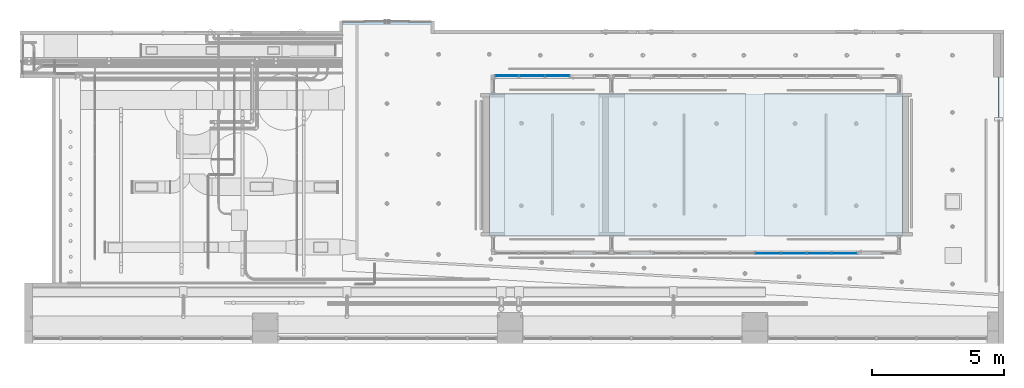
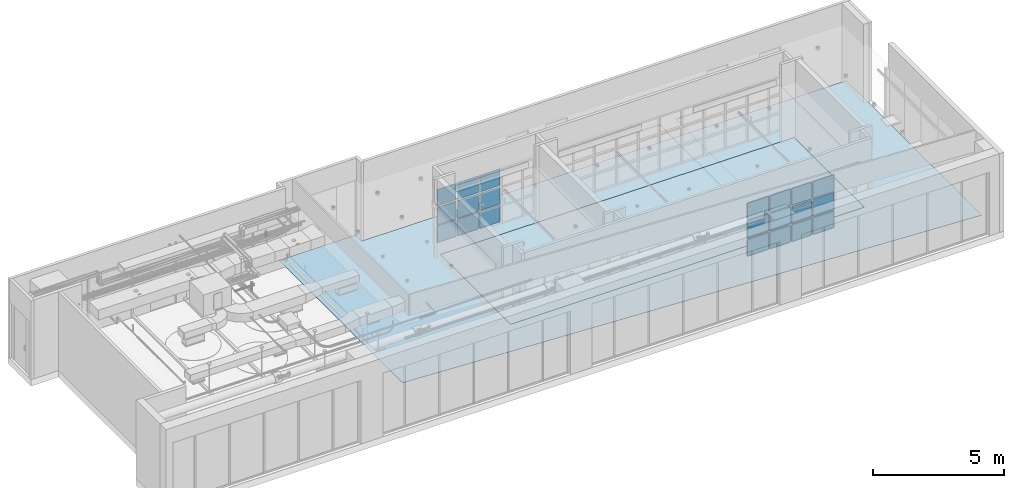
# One storey, part 13 of 108: 21 plates, 2 slabs, 1 opening, 2 elements without a shape of their own.
"""IFC4 building model written with IfcOpenShell, lengths in feet."""

from ifc_helpers import new_model, entity, si_unit, converted_unit, derived_unit, direction, frame, frame_2d, origin, origin_2d_with_axis, place, context, subcontext, project, spatial, polyline, rectangle, outline, extrude, shape, source, transform, mapped, material, layer, layer_set, layer_usage, type_object, type_shapes, element, aggregate, save


model = new_model("IFC4")

# Units and contexts
model_context = context("Model", 3, precision=0.0001, world=origin(), true_north=direction((6.12303176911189e-17, 1.0)))
body_context = subcontext(model_context, "Body", "Model", "MODEL_VIEW")
footprint_context = subcontext(model_context, "FootPrint", "Model", "MODEL_VIEW")
ifc_project = project(units=[converted_unit("LENGTHUNIT", "FOOT", entity("IfcRatioMeasure", 0.3048), si_unit("LENGTHUNIT", "METRE"), dimensions=[1, 0, 0, 0, 0, 0, 0]), converted_unit("AREAUNIT", "SQUARE FOOT", entity("IfcRatioMeasure", 0.09290304), si_unit("AREAUNIT", "SQUARE_METRE"), dimensions=[2, 0, 0, 0, 0, 0, 0]), converted_unit("VOLUMEUNIT", "CUBIC FOOT", entity("IfcRatioMeasure", 0.028316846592), si_unit("VOLUMEUNIT", "CUBIC_METRE"), dimensions=[3, 0, 0, 0, 0, 0, 0]), converted_unit("PLANEANGLEUNIT", "DEGREE", entity("IfcRatioMeasure", 0.0174532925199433), si_unit("PLANEANGLEUNIT", "RADIAN"), dimensions=[0, 0, 0, 0, 0, 0, 0]), si_unit("MASSUNIT", "GRAM", prefix="KILO"), derived_unit("MASSDENSITYUNIT", [(si_unit("MASSUNIT", "GRAM", prefix="KILO"), 1), (si_unit("LENGTHUNIT", "METRE"), -3)]), si_unit("TIMEUNIT", "SECOND"), si_unit("FREQUENCYUNIT", "HERTZ"), si_unit("THERMODYNAMICTEMPERATUREUNIT", "DEGREE_CELSIUS"), derived_unit("THERMALTRANSMITTANCEUNIT", [(si_unit("MASSUNIT", "GRAM", prefix="KILO"), 1), (si_unit("THERMODYNAMICTEMPERATUREUNIT", "KELVIN"), -1), (si_unit("TIMEUNIT", "SECOND"), -3)]), derived_unit("VOLUMETRICFLOWRATEUNIT", [(si_unit("LENGTHUNIT", "METRE"), 3), (si_unit("TIMEUNIT", "SECOND"), -1)]), si_unit("ELECTRICCURRENTUNIT", "AMPERE"), si_unit("ELECTRICVOLTAGEUNIT", "VOLT"), si_unit("POWERUNIT", "WATT"), si_unit("FORCEUNIT", "NEWTON"), si_unit("ILLUMINANCEUNIT", "LUX"), si_unit("LUMINOUSFLUXUNIT", "LUMEN"), si_unit("LUMINOUSINTENSITYUNIT", "CANDELA"), derived_unit("USERDEFINED", [(si_unit("MASSUNIT", "GRAM", prefix="KILO"), -1), (si_unit("LENGTHUNIT", "METRE"), -2), (si_unit("TIMEUNIT", "SECOND"), 3), (si_unit("LUMINOUSFLUXUNIT", "LUMEN"), 1)]), derived_unit("LINEARVELOCITYUNIT", [(si_unit("LENGTHUNIT", "METRE"), 1), (si_unit("TIMEUNIT", "SECOND"), -1)]), si_unit("PRESSUREUNIT", "PASCAL"), derived_unit("USERDEFINED", [(si_unit("LENGTHUNIT", "METRE"), -2), (si_unit("MASSUNIT", "GRAM", prefix="KILO"), 1), (si_unit("TIMEUNIT", "SECOND"), -2)])], contexts=[model_context])

# Site, building, storey
site_placement = place(None, origin())
site = spatial("IfcSite", under=ifc_project, at=site_placement, Name="Default", CompositionType="ELEMENT")
building_placement = place(site_placement, origin())
building = spatial("IfcBuilding", under=site, at=building_placement, CompositionType="ELEMENT")
storey_placement = place(building_placement, frame((0.0, 0.0, 168.0)))
storey = spatial("IfcBuildingStorey", under=building, at=storey_placement, Name="Level 15", CompositionType="ELEMENT", Elevation=168.0)

# Curtain wall, plates
curtain_wall_type = type_object("IfcCurtainWallType", Name="Curtain Wall:Storefront 02", PredefinedType="NOTDEFINED")
curtain_wall_1_placement = place(storey_placement, frame((0.0, 0.0, -168.0)))
curtain_wall_1 = element("IfcCurtainWall", 1, at=curtain_wall_1_placement, inside=storey, type_object=curtain_wall_type, Name="Curtain Wall:Storefront 02", ObjectType="Curtain Wall:Storefront 02", PredefinedType="NOTDEFINED")
ifc_material_1 = material(Name="<Unnamed>")
ifc_layer_1 = layer(ifc_material_1, 0.0833333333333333, Name="<Unnamed>")
ifc_layer_set_1 = layer_set([ifc_layer_1], Name="System Panel:Glazed")
ifc_layer_usage_1 = layer_usage(ifc_layer_set_1, "AXIS3", "POSITIVE", 0.104166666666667)
plate_type_1 = type_object("IfcPlateType", Name="Glazed", PredefinedType="CURTAIN_PANEL", material=ifc_layer_set_1)
shared_shape_1 = source(origin(), body_context, "Body", "SweptSolid", [
    extrude(rectangle(XDim=0.0833333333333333, YDim=3.04166666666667, at=frame_2d((-6.93889390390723e-18, 0.0), x_axis=(1.0, 0.0))), frame((1.52083333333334, 0.0416666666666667, 0.0), z_axis=(0.0, 0.0, 1.0), x_axis=(0.0, 1.0, 0.0)), (0.0, 0.0, 1.0), 2.52844160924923),
])
cartesian_point_1 = entity("IfcCartesianPoint", [3.04166666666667, 0.0])
shared_shape_2 = source(frame((-1.52083333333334, 0.0625, 0.0)), footprint_context, "FootPrint", "Curve2D", [
    entity("IfcPolyline", [cartesian_point_1, entity("IfcCartesianPoint", [3.04166666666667, 0.0833333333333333]), entity("IfcCartesianPoint", [0.0, 0.0833333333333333]), entity("IfcCartesianPoint", [0.0, 0.0]), cartesian_point_1]),
])
type_shapes(plate_type_1, [shared_shape_1, shared_shape_2])
plate_1_placement = place(curtain_wall_1_placement, frame((43.6512039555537, -11.9427703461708, 168.208333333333), z_axis=(0.0, 0.0, 1.0), x_axis=(-1.0, 0.0, 0.0)))
plate_1 = element("IfcPlate", 2, at=plate_1_placement, type_object=plate_type_1, material=ifc_layer_usage_1, Name="System Panel:Glazed", ObjectType="System Panel:Glazed", PredefinedType="CURTAIN_PANEL", shapes=[
    shape(body_context, "Body", "MappedRepresentation", [mapped(shared_shape_1, transform((0.0, 0.0, 0.0), scale=1.0))]),
    shape(body_context, "Body", "MappedRepresentation", [mapped(shared_shape_2, transform((0.0, 0.0, 0.0), scale=1.0))]),
])
ifc_layer_usage_2 = layer_usage(ifc_layer_set_1, "AXIS3", "POSITIVE", 0.104166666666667)
plate_2_placement = place(curtain_wall_1_placement, frame((34.1512039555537, -11.9427703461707, 168.208333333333), z_axis=(0.0, 0.0, 1.0), x_axis=(-1.0, 0.0, 0.0)))
plate_2 = element("IfcPlate", 3, at=plate_2_placement, type_object=plate_type_1, material=ifc_layer_usage_2, Name="System Panel:Glazed", ObjectType="System Panel:Glazed", PredefinedType="CURTAIN_PANEL", shapes=[
    shape(body_context, "Body", "MappedRepresentation", [mapped(shared_shape_1, transform((0.0, 0.0, 0.0), scale=1.0))]),
    shape(body_context, "Body", "MappedRepresentation", [mapped(shared_shape_2, transform((0.0, 0.0, 0.0), scale=1.0))]),
])
ifc_layer_usage_3 = layer_usage(ifc_layer_set_1, "AXIS3", "POSITIVE", 0.104166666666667)
plate_3_placement = place(curtain_wall_1_placement, frame((43.6512039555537, -11.9427703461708, 173.786049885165), z_axis=(0.0, 0.0, 1.0), x_axis=(-1.0, 0.0, 0.0)))
plate_3 = element("IfcPlate", 4, at=plate_3_placement, type_object=plate_type_1, material=ifc_layer_usage_3, Name="System Panel:Glazed", ObjectType="System Panel:Glazed", PredefinedType="CURTAIN_PANEL", shapes=[
    shape(body_context, "Body", "MappedRepresentation", [mapped(shared_shape_1, transform((0.0, 0.0, 0.0), scale=1.0))]),
    shape(body_context, "Body", "MappedRepresentation", [mapped(shared_shape_2, transform((0.0, 0.0, 0.0), scale=1.0))]),
])
ifc_layer_usage_4 = layer_usage(ifc_layer_set_1, "AXIS3", "POSITIVE", 0.104166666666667)
plate_4_placement = place(curtain_wall_1_placement, frame((34.1512039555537, -11.9427703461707, 173.786049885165), z_axis=(0.0, 0.0, 1.0), x_axis=(-1.0, 0.0, 0.0)))
plate_4 = element("IfcPlate", 5, at=plate_4_placement, type_object=plate_type_1, material=ifc_layer_usage_4, Name="System Panel:Glazed", ObjectType="System Panel:Glazed", PredefinedType="CURTAIN_PANEL", shapes=[
    shape(body_context, "Body", "MappedRepresentation", [mapped(shared_shape_1, transform((0.0, 0.0, 0.0), scale=1.0))]),
    shape(body_context, "Body", "MappedRepresentation", [mapped(shared_shape_2, transform((0.0, 0.0, 0.0), scale=1.0))]),
])
ifc_layer_usage_5 = layer_usage(ifc_layer_set_1, "AXIS3", "POSITIVE", 0.104166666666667)
plate_type_2 = type_object("IfcPlateType", Name="Glazed", PredefinedType="CURTAIN_PANEL", material=ifc_layer_set_1)
shared_shape_3 = source(origin(), body_context, "Body", "SweptSolid", [
    extrude(rectangle(XDim=0.0833333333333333, YDim=2.875, at=frame_2d((-6.93889390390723e-18, 0.0), x_axis=(1.0, 0.0))), frame((1.4375, 0.0416666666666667, 0.0), z_axis=(0.0, 0.0, 1.0), x_axis=(0.0, 1.0, 0.0)), (0.0, 0.0, 1.0), 2.52844160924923),
])
cartesian_point_2 = entity("IfcCartesianPoint", [2.875, 0.0])
shared_shape_4 = source(frame((-1.4375, 0.0625, 0.0)), footprint_context, "FootPrint", "Curve2D", [
    entity("IfcPolyline", [cartesian_point_2, entity("IfcCartesianPoint", [2.875, 0.0833333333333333]), entity("IfcCartesianPoint", [0.0, 0.0833333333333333]), entity("IfcCartesianPoint", [0.0, 0.0]), cartesian_point_2]),
])
type_shapes(plate_type_2, [shared_shape_3, shared_shape_4])
plate_5_placement = place(curtain_wall_1_placement, frame((40.4012039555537, -11.9427703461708, 168.208333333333), z_axis=(0.0, 0.0, 1.0), x_axis=(-1.0, 0.0, 0.0)))
plate_5 = element("IfcPlate", 6, at=plate_5_placement, type_object=plate_type_2, material=ifc_layer_usage_5, Name="System Panel:Glazed", ObjectType="System Panel:Glazed", PredefinedType="CURTAIN_PANEL", shapes=[
    shape(body_context, "Body", "MappedRepresentation", [mapped(shared_shape_3, transform((0.0, 0.0, 0.0), scale=1.0))]),
    shape(body_context, "Body", "MappedRepresentation", [mapped(shared_shape_4, transform((0.0, 0.0, 0.0), scale=1.0))]),
])
ifc_layer_usage_6 = layer_usage(ifc_layer_set_1, "AXIS3", "POSITIVE", 0.104166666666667)
plate_6_placement = place(curtain_wall_1_placement, frame((40.4012039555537, -11.9427703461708, 173.786049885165), z_axis=(0.0, 0.0, 1.0), x_axis=(-1.0, 0.0, 0.0)))
plate_6 = element("IfcPlate", 7, at=plate_6_placement, type_object=plate_type_2, material=ifc_layer_usage_6, Name="System Panel:Glazed", ObjectType="System Panel:Glazed", PredefinedType="CURTAIN_PANEL", shapes=[
    shape(body_context, "Body", "MappedRepresentation", [mapped(shared_shape_3, transform((0.0, 0.0, 0.0), scale=1.0))]),
    shape(body_context, "Body", "MappedRepresentation", [mapped(shared_shape_4, transform((0.0, 0.0, 0.0), scale=1.0))]),
])
ifc_layer_usage_7 = layer_usage(ifc_layer_set_1, "AXIS3", "POSITIVE", 0.104166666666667)
plate_type_3 = type_object("IfcPlateType", Name="Glazed", PredefinedType="CURTAIN_PANEL", material=ifc_layer_set_1)
shared_shape_5 = source(origin(), body_context, "Body", "SweptSolid", [
    extrude(rectangle(XDim=0.0833333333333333, YDim=2.95833333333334, at=frame_2d((-6.93889390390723e-18, 0.0), x_axis=(1.0, 0.0))), frame((1.47916666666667, 0.0416666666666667, 0.0), z_axis=(0.0, 0.0, 1.0), x_axis=(0.0, 1.0, 0.0)), (0.0, 0.0, 1.0), 2.52844160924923),
])
cartesian_point_3 = entity("IfcCartesianPoint", [2.95833333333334, 0.0])
shared_shape_6 = source(frame((-1.47916666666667, 0.0625, 0.0)), footprint_context, "FootPrint", "Curve2D", [
    entity("IfcPolyline", [cartesian_point_3, entity("IfcCartesianPoint", [2.95833333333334, 0.0833333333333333]), entity("IfcCartesianPoint", [0.0, 0.0833333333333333]), entity("IfcCartesianPoint", [0.0, 0.0]), cartesian_point_3]),
])
type_shapes(plate_type_3, [shared_shape_5, shared_shape_6])
plate_7_placement = place(curtain_wall_1_placement, frame((37.3178706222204, -11.9427703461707, 168.208333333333), z_axis=(0.0, 0.0, 1.0), x_axis=(-1.0, 0.0, 0.0)))
plate_7 = element("IfcPlate", 8, at=plate_7_placement, type_object=plate_type_3, material=ifc_layer_usage_7, Name="System Panel:Glazed", ObjectType="System Panel:Glazed", PredefinedType="CURTAIN_PANEL", shapes=[
    shape(body_context, "Body", "MappedRepresentation", [mapped(shared_shape_5, transform((0.0, 0.0, 0.0), scale=1.0))]),
    shape(body_context, "Body", "MappedRepresentation", [mapped(shared_shape_6, transform((0.0, 0.0, 0.0), scale=1.0))]),
])
ifc_layer_usage_8 = layer_usage(ifc_layer_set_1, "AXIS3", "POSITIVE", 0.104166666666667)
plate_8_placement = place(curtain_wall_1_placement, frame((37.3178706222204, -11.9427703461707, 173.786049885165), z_axis=(0.0, 0.0, 1.0), x_axis=(-1.0, 0.0, 0.0)))
plate_8 = element("IfcPlate", 9, at=plate_8_placement, type_object=plate_type_3, material=ifc_layer_usage_8, Name="System Panel:Glazed", ObjectType="System Panel:Glazed", PredefinedType="CURTAIN_PANEL", shapes=[
    shape(body_context, "Body", "MappedRepresentation", [mapped(shared_shape_5, transform((0.0, 0.0, 0.0), scale=1.0))]),
    shape(body_context, "Body", "MappedRepresentation", [mapped(shared_shape_6, transform((0.0, 0.0, 0.0), scale=1.0))]),
])
ifc_layer_usage_9 = layer_usage(ifc_layer_set_1, "AXIS3", "POSITIVE", 0.104166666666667)
plate_type_4 = type_object("IfcPlateType", Name="Glazed", PredefinedType="CURTAIN_PANEL", material=ifc_layer_set_1)
shared_shape_7 = source(origin(), body_context, "Body", "SweptSolid", [
    extrude(rectangle(XDim=0.0833333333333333, YDim=3.04166666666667, at=frame_2d((-6.93889390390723e-18, 0.0), x_axis=(1.0, 0.0))), frame((1.52083333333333, 0.0416666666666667, 0.0), z_axis=(0.0, 0.0, 1.0), x_axis=(0.0, 1.0, 0.0)), (0.0, 0.0, 1.0), 2.63260827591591),
])
cartesian_point_4 = entity("IfcCartesianPoint", [3.04166666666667, 0.0])
shared_shape_8 = source(frame((-1.52083333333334, 0.0625, 0.0)), footprint_context, "FootPrint", "Curve2D", [
    entity("IfcPolyline", [cartesian_point_4, entity("IfcCartesianPoint", [3.04166666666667, 0.0833333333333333]), entity("IfcCartesianPoint", [0.0, 0.0833333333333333]), entity("IfcCartesianPoint", [0.0, 0.0]), cartesian_point_4]),
])
type_shapes(plate_type_4, [shared_shape_7, shared_shape_8])
plate_9_placement = place(curtain_wall_1_placement, frame((43.6512039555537, -11.9427703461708, 170.945108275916), z_axis=(0.0, 0.0, 1.0), x_axis=(-1.0, 0.0, 0.0)))
plate_9 = element("IfcPlate", 10, at=plate_9_placement, type_object=plate_type_4, material=ifc_layer_usage_9, Name="System Panel:Glazed", ObjectType="System Panel:Glazed", PredefinedType="CURTAIN_PANEL", shapes=[
    shape(body_context, "Body", "MappedRepresentation", [mapped(shared_shape_7, transform((0.0, 0.0, 0.0), scale=1.0))]),
    shape(body_context, "Body", "MappedRepresentation", [mapped(shared_shape_8, transform((0.0, 0.0, 0.0), scale=1.0))]),
])
ifc_layer_usage_10 = layer_usage(ifc_layer_set_1, "AXIS3", "POSITIVE", 0.104166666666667)
plate_10_placement = place(curtain_wall_1_placement, frame((34.1512039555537, -11.9427703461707, 170.945108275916), z_axis=(0.0, 0.0, 1.0), x_axis=(-1.0, 0.0, 0.0)))
plate_10 = element("IfcPlate", 11, at=plate_10_placement, type_object=plate_type_4, material=ifc_layer_usage_10, Name="System Panel:Glazed", ObjectType="System Panel:Glazed", PredefinedType="CURTAIN_PANEL", shapes=[
    shape(body_context, "Body", "MappedRepresentation", [mapped(shared_shape_7, transform((0.0, 0.0, 0.0), scale=1.0))]),
    shape(body_context, "Body", "MappedRepresentation", [mapped(shared_shape_8, transform((0.0, 0.0, 0.0), scale=1.0))]),
])
ifc_layer_usage_11 = layer_usage(ifc_layer_set_1, "AXIS3", "POSITIVE", 0.104166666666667)
plate_type_5 = type_object("IfcPlateType", Name="Glazed", PredefinedType="CURTAIN_PANEL", material=ifc_layer_set_1)
shared_shape_9 = source(origin(), body_context, "Body", "SweptSolid", [
    extrude(rectangle(XDim=0.0833333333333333, YDim=2.875, at=frame_2d((-6.93889390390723e-18, 0.0), x_axis=(1.0, 0.0))), frame((1.4375, 0.0416666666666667, 0.0), z_axis=(0.0, 0.0, 1.0), x_axis=(0.0, 1.0, 0.0)), (0.0, 0.0, 1.0), 2.63260827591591),
])
cartesian_point_5 = entity("IfcCartesianPoint", [2.875, 0.0])
shared_shape_10 = source(frame((-1.4375, 0.0624999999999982, 0.0)), footprint_context, "FootPrint", "Curve2D", [
    entity("IfcPolyline", [cartesian_point_5, entity("IfcCartesianPoint", [2.875, 0.0833333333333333]), entity("IfcCartesianPoint", [0.0, 0.0833333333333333]), entity("IfcCartesianPoint", [0.0, 0.0]), cartesian_point_5]),
])
type_shapes(plate_type_5, [shared_shape_9, shared_shape_10])
plate_11_placement = place(curtain_wall_1_placement, frame((40.4012039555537, -11.9427703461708, 170.945108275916), z_axis=(0.0, 0.0, 1.0), x_axis=(-1.0, 0.0, 0.0)))
plate_11 = element("IfcPlate", 12, at=plate_11_placement, type_object=plate_type_5, material=ifc_layer_usage_11, Name="System Panel:Glazed", ObjectType="System Panel:Glazed", PredefinedType="CURTAIN_PANEL", shapes=[
    shape(body_context, "Body", "MappedRepresentation", [mapped(shared_shape_9, transform((0.0, 0.0, 0.0), scale=1.0))]),
    shape(body_context, "Body", "MappedRepresentation", [mapped(shared_shape_10, transform((0.0, 0.0, 0.0), scale=1.0))]),
])
ifc_layer_usage_12 = layer_usage(ifc_layer_set_1, "AXIS3", "POSITIVE", 0.104166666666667)
plate_type_6 = type_object("IfcPlateType", Name="Glazed", PredefinedType="CURTAIN_PANEL", material=ifc_layer_set_1)
shared_shape_11 = source(origin(), body_context, "Body", "SweptSolid", [
    extrude(rectangle(XDim=0.0833333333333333, YDim=2.95833333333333, at=frame_2d((-6.93889390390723e-18, 0.0), x_axis=(1.0, 0.0))), frame((1.47916666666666, 0.0416666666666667, 0.0), z_axis=(0.0, 0.0, 1.0), x_axis=(0.0, 1.0, 0.0)), (0.0, 0.0, 1.0), 2.63260827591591),
])
cartesian_point_6 = entity("IfcCartesianPoint", [2.95833333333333, 0.0])
shared_shape_12 = source(frame((-1.47916666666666, 0.0625, 0.0)), footprint_context, "FootPrint", "Curve2D", [
    entity("IfcPolyline", [cartesian_point_6, entity("IfcCartesianPoint", [2.95833333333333, 0.0833333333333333]), entity("IfcCartesianPoint", [0.0, 0.0833333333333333]), entity("IfcCartesianPoint", [0.0, 0.0]), cartesian_point_6]),
])
type_shapes(plate_type_6, [shared_shape_11, shared_shape_12])
plate_12_placement = place(curtain_wall_1_placement, frame((37.3178706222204, -11.9427703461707, 170.945108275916), z_axis=(0.0, 0.0, 1.0), x_axis=(-1.0, 0.0, 0.0)))
plate_12 = element("IfcPlate", 13, at=plate_12_placement, type_object=plate_type_6, material=ifc_layer_usage_12, Name="System Panel:Glazed", ObjectType="System Panel:Glazed", PredefinedType="CURTAIN_PANEL", shapes=[
    shape(body_context, "Body", "MappedRepresentation", [mapped(shared_shape_11, transform((0.0, 0.0, 0.0), scale=1.0))]),
    shape(body_context, "Body", "MappedRepresentation", [mapped(shared_shape_12, transform((0.0, 0.0, 0.0), scale=1.0))]),
])
aggregate(curtain_wall_1, [plate_1, plate_5, plate_7, plate_2, plate_9, plate_11, plate_12, plate_10, plate_3, plate_6, plate_8, plate_4])

curtain_wall_2_placement = place(storey_placement, frame((0.0, 0.0, -168.0)))
curtain_wall_2 = element("IfcCurtainWall", 14, at=curtain_wall_2_placement, inside=storey, type_object=curtain_wall_type, Name="Curtain Wall:Storefront 02", ObjectType="Curtain Wall:Storefront 02", PredefinedType="NOTDEFINED")
ifc_layer_usage_13 = layer_usage(ifc_layer_set_1, "AXIS3", "POSITIVE", 0.104166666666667)
plate_type_7 = type_object("IfcPlateType", Name="Glazed", PredefinedType="CURTAIN_PANEL", material=ifc_layer_set_1)
shared_shape_13 = source(origin(), body_context, "Body", "SweptSolid", [
    extrude(rectangle(XDim=0.0833333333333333, YDim=2.90283401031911, at=origin_2d_with_axis()), frame((1.45141700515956, 0.0416666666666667, 0.0), z_axis=(0.0, 0.0, 1.0), x_axis=(0.0, 1.0, 0.0)), (0.0, 0.0, 1.0), 2.52844160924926),
])
cartesian_point_7 = entity("IfcCartesianPoint", [2.90283401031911, 0.0])
shared_shape_14 = source(frame((-1.45141700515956, -0.145833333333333, 0.0)), footprint_context, "FootPrint", "Curve2D", [
    entity("IfcPolyline", [cartesian_point_7, entity("IfcCartesianPoint", [2.90283401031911, 0.0833333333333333]), entity("IfcCartesianPoint", [0.0, 0.0833333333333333]), entity("IfcCartesianPoint", [0.0, 0.0]), cartesian_point_7]),
])
type_shapes(plate_type_7, [shared_shape_13, shared_shape_14])
plate_13_placement = place(curtain_wall_2_placement, frame((7.9845372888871, 10.1064829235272, 168.208333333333), z_axis=(0.0, 0.0, 1.0), x_axis=(-1.0, 0.0, 0.0)))
plate_13 = element("IfcPlate", 15, at=plate_13_placement, type_object=plate_type_7, material=ifc_layer_usage_13, Name="System Panel:Glazed", ObjectType="System Panel:Glazed", PredefinedType="CURTAIN_PANEL", shapes=[
    shape(body_context, "Body", "MappedRepresentation", [mapped(shared_shape_13, transform((0.0, 0.0, 0.0), scale=1.0))]),
    shape(body_context, "Body", "MappedRepresentation", [mapped(shared_shape_14, transform((0.0, 0.0, 0.0), scale=1.0))]),
])
ifc_layer_usage_14 = layer_usage(ifc_layer_set_1, "AXIS3", "POSITIVE", 0.104166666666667)
plate_14_placement = place(curtain_wall_2_placement, frame((7.9845372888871, 10.1064829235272, 173.786049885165), z_axis=(0.0, 0.0, 1.0), x_axis=(-1.0, 0.0, 0.0)))
plate_14 = element("IfcPlate", 16, at=plate_14_placement, type_object=plate_type_7, material=ifc_layer_usage_14, Name="System Panel:Glazed", ObjectType="System Panel:Glazed", PredefinedType="CURTAIN_PANEL", shapes=[
    shape(body_context, "Body", "MappedRepresentation", [mapped(shared_shape_13, transform((0.0, 0.0, 0.0), scale=1.0))]),
    shape(body_context, "Body", "MappedRepresentation", [mapped(shared_shape_14, transform((0.0, 0.0, 0.0), scale=1.0))]),
])
ifc_layer_usage_15 = layer_usage(ifc_layer_set_1, "AXIS3", "POSITIVE", 0.104166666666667)
plate_type_8 = type_object("IfcPlateType", Name="Glazed", PredefinedType="CURTAIN_PANEL", material=ifc_layer_set_1)
shared_shape_15 = source(origin(), body_context, "Body", "SweptSolid", [
    extrude(rectangle(XDim=0.0833333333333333, YDim=3.03483468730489, at=origin_2d_with_axis()), frame((1.51741734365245, 0.0416666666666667, 0.0), z_axis=(0.0, 0.0, 1.0), x_axis=(0.0, 1.0, 0.0)), (0.0, 0.0, 1.0), 2.52844160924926),
])
cartesian_point_8 = entity("IfcCartesianPoint", [3.03483468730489, 0.0])
shared_shape_16 = source(frame((-1.51741734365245, -0.145833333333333, 0.0)), footprint_context, "FootPrint", "Curve2D", [
    entity("IfcPolyline", [cartesian_point_8, entity("IfcCartesianPoint", [3.03483468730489, 0.0833333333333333]), entity("IfcCartesianPoint", [0.0, 0.0833333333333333]), entity("IfcCartesianPoint", [0.0, 0.0]), cartesian_point_8]),
])
type_shapes(plate_type_8, [shared_shape_15, shared_shape_16])
plate_15_placement = place(curtain_wall_2_placement, frame((4.87336994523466, 10.1064829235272, 168.208333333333), z_axis=(0.0, 0.0, 1.0), x_axis=(-1.0, 0.0, 0.0)))
plate_15 = element("IfcPlate", 17, at=plate_15_placement, type_object=plate_type_8, material=ifc_layer_usage_15, Name="System Panel:Glazed", ObjectType="System Panel:Glazed", PredefinedType="CURTAIN_PANEL", shapes=[
    shape(body_context, "Body", "MappedRepresentation", [mapped(shared_shape_15, transform((0.0, 0.0, 0.0), scale=1.0))]),
    shape(body_context, "Body", "MappedRepresentation", [mapped(shared_shape_16, transform((0.0, 0.0, 0.0), scale=1.0))]),
])
ifc_layer_usage_16 = layer_usage(ifc_layer_set_1, "AXIS3", "POSITIVE", 0.104166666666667)
plate_16_placement = place(curtain_wall_2_placement, frame((4.87336994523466, 10.1064829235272, 173.786049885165), z_axis=(0.0, 0.0, 1.0), x_axis=(-1.0, 0.0, 0.0)))
plate_16 = element("IfcPlate", 18, at=plate_16_placement, type_object=plate_type_8, material=ifc_layer_usage_16, Name="System Panel:Glazed", ObjectType="System Panel:Glazed", PredefinedType="CURTAIN_PANEL", shapes=[
    shape(body_context, "Body", "MappedRepresentation", [mapped(shared_shape_15, transform((0.0, 0.0, 0.0), scale=1.0))]),
    shape(body_context, "Body", "MappedRepresentation", [mapped(shared_shape_16, transform((0.0, 0.0, 0.0), scale=1.0))]),
])
ifc_layer_usage_17 = layer_usage(ifc_layer_set_1, "AXIS3", "POSITIVE", 0.104166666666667)
plate_type_9 = type_object("IfcPlateType", Name="Glazed", PredefinedType="CURTAIN_PANEL", material=ifc_layer_set_1)
shared_shape_17 = source(origin(), body_context, "Body", "SweptSolid", [
    extrude(rectangle(XDim=0.0833333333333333, YDim=2.74111266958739, at=origin_2d_with_axis()), frame((1.3705563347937, 0.0416666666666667, 0.0), z_axis=(0.0, 0.0, 1.0), x_axis=(0.0, 1.0, 0.0)), (0.0, 0.0, 1.0), 2.52844160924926),
])
cartesian_point_9 = entity("IfcCartesianPoint", [2.74111266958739, 0.0])
shared_shape_18 = source(frame((-1.3705563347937, -0.145833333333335, 0.0)), footprint_context, "FootPrint", "Curve2D", [
    entity("IfcPolyline", [cartesian_point_9, entity("IfcCartesianPoint", [2.74111266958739, 0.0833333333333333]), entity("IfcCartesianPoint", [0.0, 0.0833333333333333]), entity("IfcCartesianPoint", [0.0, 0.0]), cartesian_point_9]),
])
type_shapes(plate_type_9, [shared_shape_17, shared_shape_18])
plate_17_placement = place(curtain_wall_2_placement, frame((1.63020192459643, 10.1064829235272, 168.208333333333), z_axis=(0.0, 0.0, 1.0), x_axis=(-1.0, 0.0, 0.0)))
plate_17 = element("IfcPlate", 19, at=plate_17_placement, type_object=plate_type_9, material=ifc_layer_usage_17, Name="System Panel:Glazed", ObjectType="System Panel:Glazed", PredefinedType="CURTAIN_PANEL", shapes=[
    shape(body_context, "Body", "MappedRepresentation", [mapped(shared_shape_17, transform((0.0, 0.0, 0.0), scale=1.0))]),
    shape(body_context, "Body", "MappedRepresentation", [mapped(shared_shape_18, transform((0.0, 0.0, 0.0), scale=1.0))]),
])
ifc_layer_usage_18 = layer_usage(ifc_layer_set_1, "AXIS3", "POSITIVE", 0.104166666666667)
plate_18_placement = place(curtain_wall_2_placement, frame((1.63020192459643, 10.1064829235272, 173.786049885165), z_axis=(0.0, 0.0, 1.0), x_axis=(-1.0, 0.0, 0.0)))
plate_18 = element("IfcPlate", 20, at=plate_18_placement, type_object=plate_type_9, material=ifc_layer_usage_18, Name="System Panel:Glazed", ObjectType="System Panel:Glazed", PredefinedType="CURTAIN_PANEL", shapes=[
    shape(body_context, "Body", "MappedRepresentation", [mapped(shared_shape_17, transform((0.0, 0.0, 0.0), scale=1.0))]),
    shape(body_context, "Body", "MappedRepresentation", [mapped(shared_shape_18, transform((0.0, 0.0, 0.0), scale=1.0))]),
])
ifc_layer_usage_19 = layer_usage(ifc_layer_set_1, "AXIS3", "POSITIVE", 0.104166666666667)
plate_type_10 = type_object("IfcPlateType", Name="Glazed", PredefinedType="CURTAIN_PANEL", material=ifc_layer_set_1)
shared_shape_19 = source(origin(), body_context, "Body", "SweptSolid", [
    extrude(rectangle(XDim=0.0833333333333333, YDim=2.90283401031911, at=origin_2d_with_axis()), frame((1.45141700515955, 0.0416666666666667, 0.0), z_axis=(0.0, 0.0, 1.0), x_axis=(0.0, 1.0, 0.0)), (0.0, 0.0, 1.0), 2.63260827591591),
])
cartesian_point_10 = entity("IfcCartesianPoint", [2.90283401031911, 0.0])
shared_shape_20 = source(frame((-1.45141700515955, -0.145833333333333, 0.0)), footprint_context, "FootPrint", "Curve2D", [
    entity("IfcPolyline", [cartesian_point_10, entity("IfcCartesianPoint", [2.90283401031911, 0.0833333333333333]), entity("IfcCartesianPoint", [0.0, 0.0833333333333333]), entity("IfcCartesianPoint", [0.0, 0.0]), cartesian_point_10]),
])
type_shapes(plate_type_10, [shared_shape_19, shared_shape_20])
plate_19_placement = place(curtain_wall_2_placement, frame((7.9845372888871, 10.1064829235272, 170.945108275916), z_axis=(0.0, 0.0, 1.0), x_axis=(-1.0, 0.0, 0.0)))
plate_19 = element("IfcPlate", 21, at=plate_19_placement, type_object=plate_type_10, material=ifc_layer_usage_19, Name="System Panel:Glazed", ObjectType="System Panel:Glazed", PredefinedType="CURTAIN_PANEL", shapes=[
    shape(body_context, "Body", "MappedRepresentation", [mapped(shared_shape_19, transform((0.0, 0.0, 0.0), scale=1.0))]),
    shape(body_context, "Body", "MappedRepresentation", [mapped(shared_shape_20, transform((0.0, 0.0, 0.0), scale=1.0))]),
])
ifc_layer_usage_20 = layer_usage(ifc_layer_set_1, "AXIS3", "POSITIVE", 0.104166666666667)
plate_type_11 = type_object("IfcPlateType", Name="Glazed", PredefinedType="CURTAIN_PANEL", material=ifc_layer_set_1)
shared_shape_21 = source(origin(), body_context, "Body", "SweptSolid", [
    extrude(rectangle(XDim=0.0833333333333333, YDim=3.03483468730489, at=origin_2d_with_axis()), frame((1.51741734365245, 0.0416666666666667, 0.0), z_axis=(0.0, 0.0, 1.0), x_axis=(0.0, 1.0, 0.0)), (0.0, 0.0, 1.0), 2.63260827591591),
])
cartesian_point_11 = entity("IfcCartesianPoint", [3.03483468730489, 0.0])
shared_shape_22 = source(frame((-1.51741734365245, -0.145833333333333, 0.0)), footprint_context, "FootPrint", "Curve2D", [
    entity("IfcPolyline", [cartesian_point_11, entity("IfcCartesianPoint", [3.03483468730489, 0.0833333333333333]), entity("IfcCartesianPoint", [0.0, 0.0833333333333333]), entity("IfcCartesianPoint", [0.0, 0.0]), cartesian_point_11]),
])
type_shapes(plate_type_11, [shared_shape_21, shared_shape_22])
plate_20_placement = place(curtain_wall_2_placement, frame((4.87336994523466, 10.1064829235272, 170.945108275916), z_axis=(0.0, 0.0, 1.0), x_axis=(-1.0, 0.0, 0.0)))
plate_20 = element("IfcPlate", 22, at=plate_20_placement, type_object=plate_type_11, material=ifc_layer_usage_20, Name="System Panel:Glazed", ObjectType="System Panel:Glazed", PredefinedType="CURTAIN_PANEL", shapes=[
    shape(body_context, "Body", "MappedRepresentation", [mapped(shared_shape_21, transform((0.0, 0.0, 0.0), scale=1.0))]),
    shape(body_context, "Body", "MappedRepresentation", [mapped(shared_shape_22, transform((0.0, 0.0, 0.0), scale=1.0))]),
])
ifc_layer_usage_21 = layer_usage(ifc_layer_set_1, "AXIS3", "POSITIVE", 0.104166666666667)
plate_type_12 = type_object("IfcPlateType", Name="Glazed", PredefinedType="CURTAIN_PANEL", material=ifc_layer_set_1)
shared_shape_23 = source(origin(), body_context, "Body", "SweptSolid", [
    extrude(rectangle(XDim=0.0833333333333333, YDim=2.74111266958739, at=origin_2d_with_axis()), frame((1.3705563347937, 0.0416666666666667, 0.0), z_axis=(0.0, 0.0, 1.0), x_axis=(0.0, 1.0, 0.0)), (0.0, 0.0, 1.0), 2.63260827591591),
])
cartesian_point_12 = entity("IfcCartesianPoint", [2.74111266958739, 0.0])
shared_shape_24 = source(frame((-1.3705563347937, -0.145833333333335, 0.0)), footprint_context, "FootPrint", "Curve2D", [
    entity("IfcPolyline", [cartesian_point_12, entity("IfcCartesianPoint", [2.74111266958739, 0.0833333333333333]), entity("IfcCartesianPoint", [0.0, 0.0833333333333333]), entity("IfcCartesianPoint", [0.0, 0.0]), cartesian_point_12]),
])
type_shapes(plate_type_12, [shared_shape_23, shared_shape_24])
plate_21_placement = place(curtain_wall_2_placement, frame((1.63020192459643, 10.1064829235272, 170.945108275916), z_axis=(0.0, 0.0, 1.0), x_axis=(-1.0, 0.0, 0.0)))
plate_21 = element("IfcPlate", 23, at=plate_21_placement, type_object=plate_type_12, material=ifc_layer_usage_21, Name="System Panel:Glazed", ObjectType="System Panel:Glazed", PredefinedType="CURTAIN_PANEL", shapes=[
    shape(body_context, "Body", "MappedRepresentation", [mapped(shared_shape_23, transform((0.0, 0.0, 0.0), scale=1.0))]),
    shape(body_context, "Body", "MappedRepresentation", [mapped(shared_shape_24, transform((0.0, 0.0, 0.0), scale=1.0))]),
])
aggregate(curtain_wall_2, [plate_13, plate_15, plate_17, plate_19, plate_20, plate_21, plate_14, plate_16, plate_18])

# Slab, opening
ifc_material_2 = material(Name="Tile 4x4", Category="Ceramic")
ifc_layer_2 = layer(ifc_material_2, 0.0416666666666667, Name="Tile 4x4", Category="Ceramic")
ifc_layer_set_2 = layer_set([ifc_layer_2], Name="Floor:I-Tile")
ifc_layer_usage_22 = layer_usage(ifc_layer_set_2, "AXIS3", "POSITIVE", 0.0)
slab_type_1 = type_object("IfcSlabType", Name="Floor:I-Tile", PredefinedType="FLOOR", material=ifc_layer_set_2)
slab_1_placement = place(storey_placement, frame((-20.0881733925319, -18.6836079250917, -0.0416666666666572)))
slab_1 = element("IfcSlab", 24, at=slab_1_placement, inside=storey, type_object=slab_type_1, material=ifc_layer_usage_22, Name="Floor:I-Tile", ObjectType="Floor:I-Tile", PredefinedType="FLOOR", context=body_context, shape_type="SweptSolid", body=[
    extrude(outline(polyline([(40.6609805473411, 17.7668501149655), (29.5829721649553, 17.7668501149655), (29.5829721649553, 16.2341580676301), (-40.6609805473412, 16.2341580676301), (-40.6609805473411, -17.7668501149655), (40.6609805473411, -13.1911251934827), (40.6609805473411, 17.7668501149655)])), frame((40.6609805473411, 17.7668501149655, 0.0416666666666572), z_axis=(0.0, 0.0, -1.0), x_axis=(-1.0, 0.0, 0.0)), (0.0, 0.0, 1.0), 0.0416666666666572),
])
opening_placement = place(slab_1_placement, frame((43.7854045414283, 17.7019510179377, 0.0416666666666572)))
element("IfcOpeningElement", 25, at=opening_placement, cuts=slab_1, Name="Floor:I-Tile:2", ObjectType="Opening", context=body_context, shape_type="SweptSolid", body=[
    extrude(rectangle(XDim=17.6262511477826, YDim=51.2365982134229, at=origin_2d_with_axis()), frame((0.0, 0.0, 0.0), z_axis=(0.0, 0.0, -1.0), x_axis=(0.0, 1.0, 0.0)), (0.0, 0.0, 1.0), 0.0416666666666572),
])

# Slab
ifc_material_3 = material(Name="Carpet", Category="Metal")
ifc_layer_3 = layer(ifc_material_3, 0.0416666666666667, Name="Carpet", Category="Metal")
ifc_layer_set_3 = layer_set([ifc_layer_3], Name="Floor:I-Carpet")
ifc_layer_usage_23 = layer_usage(ifc_layer_set_3, "AXIS3", "POSITIVE", 0.0)
slab_type_2 = type_object("IfcSlabType", Name="Floor:I-Carpet", PredefinedType="FLOOR", material=ifc_layer_set_3)
slab_2_placement = place(storey_placement, origin())
element("IfcSlab", 26, at=slab_2_placement, inside=storey, type_object=slab_type_2, material=ifc_layer_usage_23, Name="Floor:I-Carpet", ObjectType="Floor:I-Carpet", PredefinedType="FLOOR", context=body_context, shape_type="SweptSolid", body=[
    extrude(rectangle(XDim=17.6262511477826, YDim=51.2365982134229, at=origin_2d_with_axis()), frame((23.6972311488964, -0.981656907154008, 0.0), z_axis=(0.0, 0.0, -1.0), x_axis=(0.0, 1.0, 0.0)), (0.0, 0.0, 1.0), 0.0416666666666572),
])

save(model, "model.ifc")
